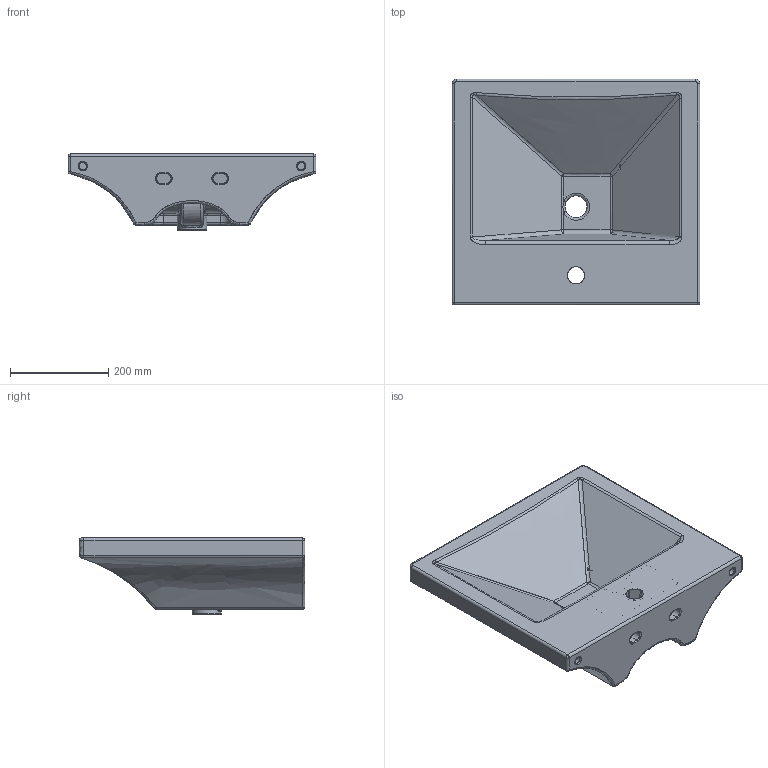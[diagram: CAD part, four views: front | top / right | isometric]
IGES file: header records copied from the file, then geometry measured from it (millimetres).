
Start section: C
Global section: file name: Lavabo Butterfly 50.igs; native system:  By UGS Corp.; preprocessor: XPlus GENERIC/IGES 3.0; author: Author; organization: Title; date: 20120705.093234; units: millimetre
Bounding box: 505 x 460 x 155 mm (x, y, z)
Surface area: 785626.2 mm2 (no closed solid volume)
Topology: 0 solids, 0 shells, 238 faces, 1138 edges, 1110 vertices
Faces by surface type: bspline 238
